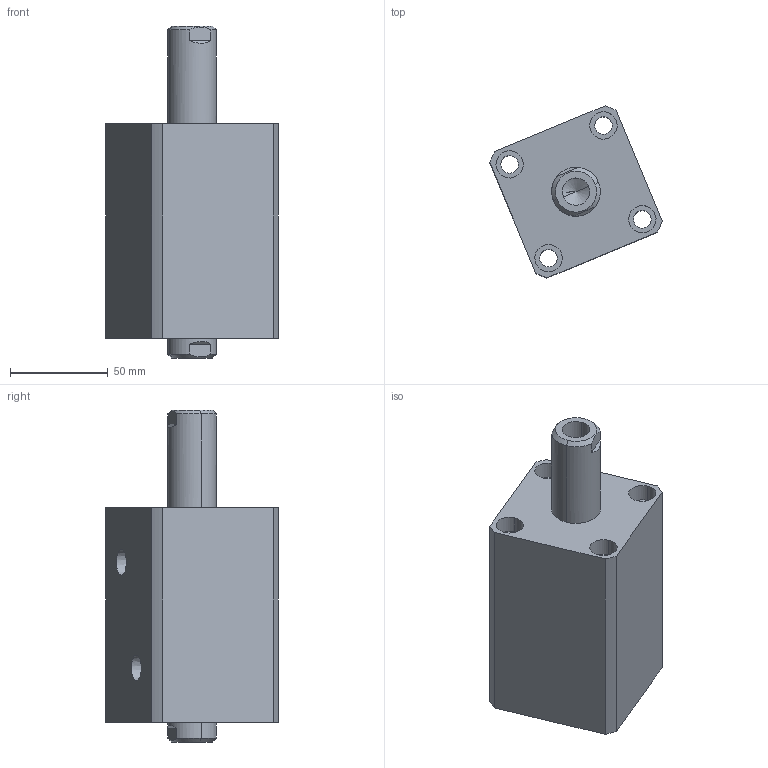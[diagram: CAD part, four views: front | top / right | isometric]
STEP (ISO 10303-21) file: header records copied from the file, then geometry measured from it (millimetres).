
FILE_DESCRIPTION (( 'STEP AP214' ), '1' );
FILE_NAME ('chtb-sw40x40n_asm.STEP', '2018-06-08T11:53:05', ( 'Windows' ), ( 'Microsoft' ), 'SwSTEP 2.0', 'SolidWorks 2015', '' );
FILE_SCHEMA (( 'AUTOMOTIVE_DESIGN' ));
Length unit declared in the file: millimetre
Products named in the file (4): CHTB-SW40X40NHSG; CHTB-SW40X40NBT; CHTB-SD40QG; chtb-sw40x40n_asm
Assembly tree (3 placements, depth 2):
  chtb-sw40x40n_asm
    CHTB-SD40QG
    CHTB-SW40X40NBT
    CHTB-SW40X40NHSG
Bounding box: 88.11 x 88.11 x 170 mm (x, y, z)
Volume: 486526.1 mm3; surface area: 94668.6 mm2
Topology: 3 solids, 3 shells, 167 faces, 429 edges, 282 vertices
Faces by surface type: cylinder 84, plane 40, cone 17, bspline 14, torus 12
Entity records: 10325 total; most frequent: CARTESIAN_POINT 6131, ORIENTED_EDGE 838, DIRECTION 822, EDGE_CURVE 419, AXIS2_PLACEMENT_3D 348, VERTEX_POINT 282, EDGE_LOOP 207, CIRCLE 189
